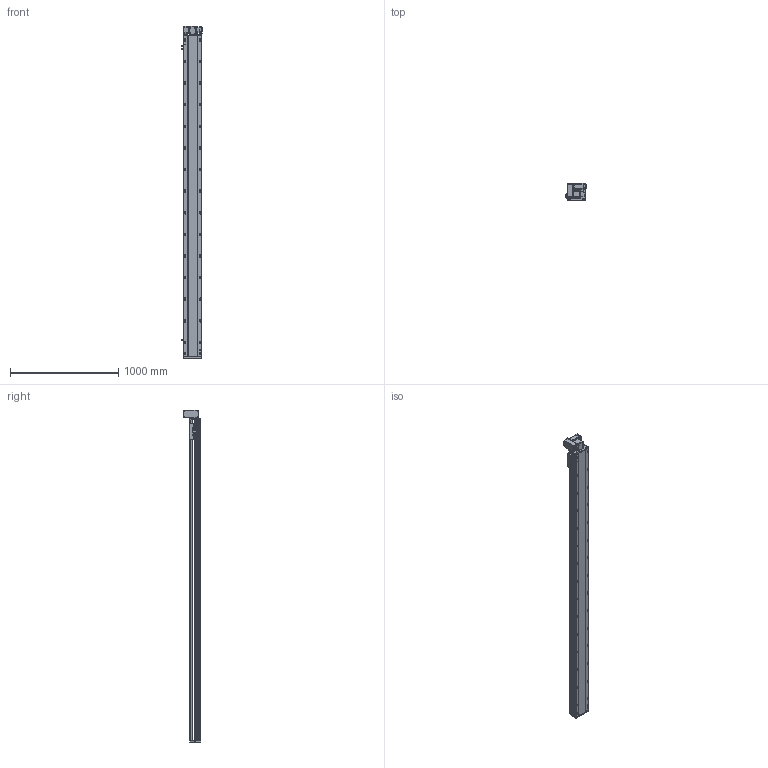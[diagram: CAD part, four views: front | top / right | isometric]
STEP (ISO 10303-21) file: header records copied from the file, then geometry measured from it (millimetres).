
FILE_DESCRIPTION (( 'STEP AP214' ), '1' );
FILE_NAME ('RTB17S-XX-2700-LW-M40-C4.STEP', '2025-12-11T07:18:39', ( '' ), ( '' ), 'SwSTEP 2.0', 'SolidWorks 2018', '' );
FILE_SCHEMA (( 'AUTOMOTIVE_DESIGN' ));
Length unit declared in the file: millimetre
Products named in the file (14): RTB14-L-005P--轴承塑胶压盖^RTB17S-LW-皮带座装配-400W_RTB17S-XX-XX-LW-M40-C4; RTB17S-L-004佪裝蹟譫蟀諉釱^RTB17S-XX-XX-LW-M40-C4; RTB17S-LW-々湍釱蚾饜-400W^RTB17S-XX-XX-LW-M40-C4; RTB14-L-018P^RTB17S-LW-々湍釱蚾饜-400W_RTB17S-XX-XX-LW-M40-C4; RTH13-BL-012覜茼え俋离^RTB17S-XX-XX-LW-M40-C4; 400W侜督萇儂^RTB17S-XX-XX-LW-M40-C4; RTB17-R-011菁釱^RTB17S-XX-XX-LW-M40-C4; RTB17S-L-001耜醱啣^RTB17S-XX-XX-LW-M40-C4; RTB14-L-017P^RTB17S-LW-々湍釱蚾饜-400W_RTB17S-XX-XX-LW-M40-C4; RTB17S-L-014-T20--々湍釱^RTB17S-LW-々湍釱蚾饜-400W_RTB17S-XX-XX-LW-M40-C4; RTB14-L-008-M20--萇儂啣^RTB17S-LW-々湍釱蚾饜-400W_RTB17S-XX-XX-LW-M40-C4; OMRON EE-SX672 传感器^RTB17S-XX-XX-LW-M40-C4; RTB17S-XX-2700-LW-M40-C4; RTB17S-L-007奻裔^RTB17S-XX-XX-LW-M40-C4
Assembly tree (16 placements, depth 3):
  RTB17S-XX-2700-LW-M40-C4
    RTB17-R-011菁釱^RTB17S-XX-XX-LW-M40-C4
    RTB17S-L-007奻裔^RTB17S-XX-XX-LW-M40-C4
    OMRON EE-SX672 传感器^RTB17S-XX-XX-LW-M40-C4  x3
    RTB17S-L-001耜醱啣^RTB17S-XX-XX-LW-M40-C4
    400W侜督萇儂^RTB17S-XX-XX-LW-M40-C4
    RTB17S-L-004佪裝蹟譫蟀諉釱^RTB17S-XX-XX-LW-M40-C4
    RTH13-BL-012覜茼え俋离^RTB17S-XX-XX-LW-M40-C4
    RTB17S-LW-々湍釱蚾饜-400W^RTB17S-XX-XX-LW-M40-C4
      RTB17S-L-014-T20--々湍釱^RTB17S-LW-々湍釱蚾饜-400W_RTB17S-XX-XX-LW-M40-C4
      RTB14-L-005P--轴承塑胶压盖^RTB17S-LW-皮带座装配-400W_RTB17S-XX-XX-LW-M40-C4
      RTB14-L-008-M20--萇儂啣^RTB17S-LW-々湍釱蚾饜-400W_RTB17S-XX-XX-LW-M40-C4
      RTB14-L-017P^RTB17S-LW-々湍釱蚾饜-400W_RTB17S-XX-XX-LW-M40-C4  x2
      RTB14-L-018P^RTB17S-LW-々湍釱蚾饜-400W_RTB17S-XX-XX-LW-M40-C4
Bounding box: 186 x 160.5 x 3072.5 mm (x, y, z)
Volume: 26235082.5 mm3; surface area: 3010759.5 mm2
Topology: 15 solids, 15 shells, 2349 faces, 6573 edges, 4293 vertices
Faces by surface type: plane 1086, cylinder 815, bspline 301, cone 139, torus 8
Entity records: 69545 total; most frequent: CARTESIAN_POINT 19778, ORIENTED_EDGE 9990, DIRECTION 9206, EDGE_CURVE 4995, VERTEX_POINT 3281, AXIS2_PLACEMENT_3D 3211, VECTOR 2784, LINE 2784
